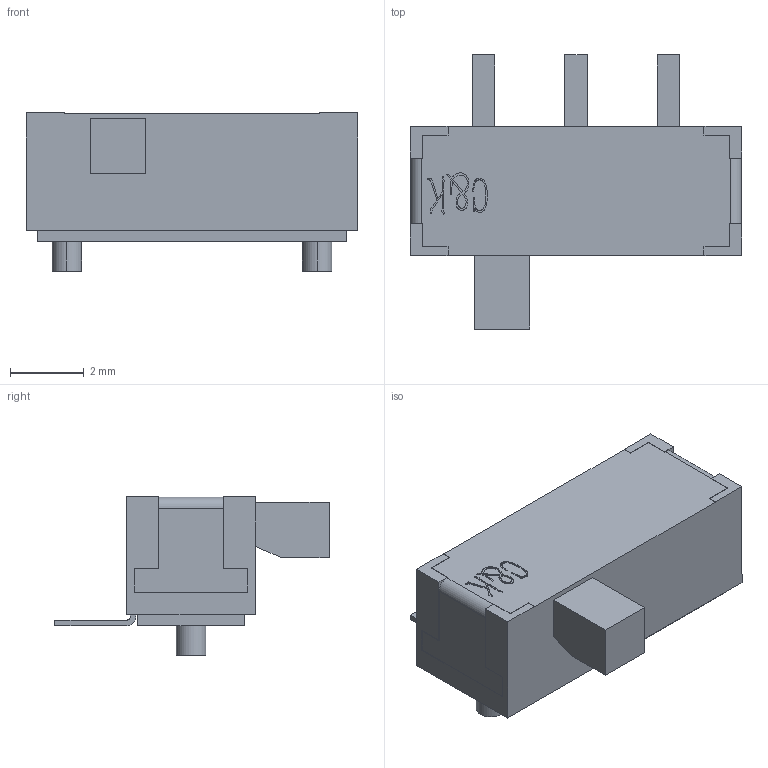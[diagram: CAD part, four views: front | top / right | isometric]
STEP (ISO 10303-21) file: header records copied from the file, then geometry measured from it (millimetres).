
FILE_DESCRIPTION (( 'STEP AP214' ), '1' );
FILE_NAME ('SW-SMD_JS102011SAQN.step', '2022-07-26T15:14:18', ( '' ), ( '' ), 'SwSTEP 2.0', 'SolidWorks 2020', '' );
FILE_SCHEMA (( 'AUTOMOTIVE_DESIGN' ));
Length unit declared in the file: millimetre
Products named in the file (1): SW-SMD_JS102011SAQN
Bounding box: 9 x 7.45 x 4.3 mm (x, y, z)
Volume: 113.4 mm3; surface area: 178.4 mm2
Topology: 14 solids, 14 shells, 512 faces, 1395 edges, 930 vertices
Faces by surface type: plane 321, bspline 179, cylinder 12
Entity records: 23073 total; most frequent: CARTESIAN_POINT 8305, ORIENTED_EDGE 2790, DIRECTION 1725, EDGE_CURVE 1395, VECTOR 1009, LINE 1009, VERTEX_POINT 930, EDGE_LOOP 543
